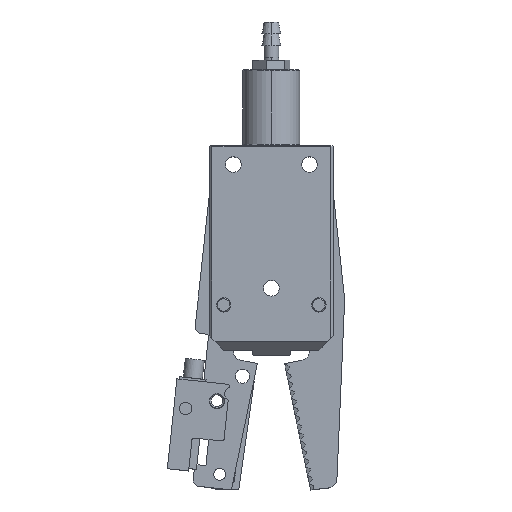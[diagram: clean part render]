
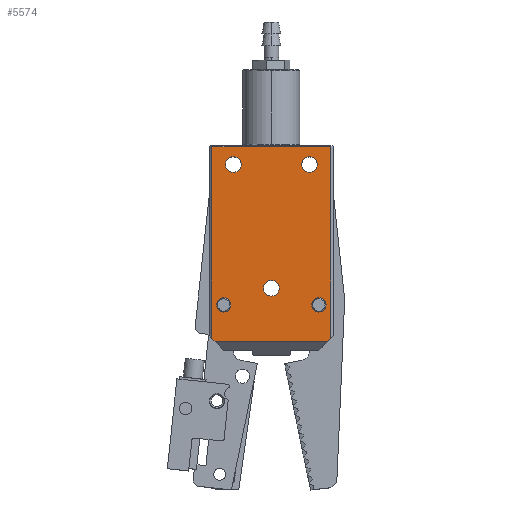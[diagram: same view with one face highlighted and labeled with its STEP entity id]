
A CAD part, top view. The second image highlights one B-rep face of the part: STEP entity #5574.
In plain terms, the highlighted planar face has unit normal (0, 0, 1).
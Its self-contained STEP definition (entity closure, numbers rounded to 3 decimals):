
#82 = VERTEX_POINT ( 'NONE', #11413 ) ;
#238 = AXIS2_PLACEMENT_3D ( 'NONE', #6987, #1581, #7915 ) ;
#245 = VERTEX_POINT ( 'NONE', #2739 ) ;
#340 = VERTEX_POINT ( 'NONE', #11297 ) ;
#346 = EDGE_CURVE ( 'NONE', #9073, #2616, #8725, .T. ) ;
#367 = CARTESIAN_POINT ( 'NONE',  ( 3.481, -20.571, 66.7 ) ) ;
#491 = CARTESIAN_POINT ( 'NONE',  ( -21.519, -20.571, 66.7 ) ) ;
#509 = ORIENTED_EDGE ( 'NONE', *, *, #5047, .F. ) ;
#593 = EDGE_LOOP ( 'NONE', ( #509, #795 ) ) ;
#596 = VERTEX_POINT ( 'NONE', #10872 ) ;
#738 = AXIS2_PLACEMENT_3D ( 'NONE', #1313, #2555, #10762 ) ;
#742 = DIRECTION ( 'NONE',  ( 0., 1., 0. ) ) ;
#769 = CARTESIAN_POINT ( 'NONE',  ( 0.981, -11.421, 66.7 ) ) ;
#795 = ORIENTED_EDGE ( 'NONE', *, *, #8669, .F. ) ;
#1023 = VECTOR ( 'NONE', #8347, 1000. ) ;
#1126 = AXIS2_PLACEMENT_3D ( 'NONE', #2076, #8433, #2997 ) ;
#1183 = CARTESIAN_POINT ( 'NONE',  ( -17.019, 18.229, 66.7 ) ) ;
#1273 = DIRECTION ( 'NONE',  ( 0., -1., 0. ) ) ;
#1284 = CIRCLE ( 'NONE', #238, 1.5 ) ;
#1313 = CARTESIAN_POINT ( 'NONE',  ( -17.019, 16.579, 66.7 ) ) ;
#1319 = ORIENTED_EDGE ( 'NONE', *, *, #4073, .T. ) ;
#1334 = VECTOR ( 'NONE', #2871, 1000. ) ;
#1516 = VERTEX_POINT ( 'NONE', #8026 ) ;
#1581 = DIRECTION ( 'NONE',  ( 0., 0., 1. ) ) ;
#1624 = AXIS2_PLACEMENT_3D ( 'NONE', #10273, #3912, #8406 ) ;
#1631 = CARTESIAN_POINT ( 'NONE',  ( -9.019, -9.421, 66.7 ) ) ;
#1636 = ORIENTED_EDGE ( 'NONE', *, *, #9389, .T. ) ;
#1742 = LINE ( 'NONE', #7425, #1334 ) ;
#1772 = EDGE_LOOP ( 'NONE', ( #6568, #1319 ) ) ;
#1809 = CIRCLE ( 'NONE', #1126, 1.65 ) ;
#1888 = EDGE_CURVE ( 'NONE', #9980, #10443, #3180, .T. ) ;
#1990 = EDGE_CURVE ( 'NONE', #82, #245, #1742, .T. ) ;
#2076 = CARTESIAN_POINT ( 'NONE',  ( -1.019, 16.579, 66.7 ) ) ;
#2090 = EDGE_LOOP ( 'NONE', ( #8263, #8153, #9591, #4567, #2728, #5239 ) ) ;
#2281 = DIRECTION ( 'NONE',  ( 0., 1., 0. ) ) ;
#2403 = DIRECTION ( 'NONE',  ( 0., 0., 1. ) ) ;
#2493 = CARTESIAN_POINT ( 'NONE',  ( -17.019, 16.579, 66.7 ) ) ;
#2555 = DIRECTION ( 'NONE',  ( 0., 0., -1. ) ) ;
#2616 = VERTEX_POINT ( 'NONE', #9142 ) ;
#2723 = AXIS2_PLACEMENT_3D ( 'NONE', #2493, #7938, #3324 ) ;
#2728 = ORIENTED_EDGE ( 'NONE', *, *, #3761, .F. ) ;
#2739 = CARTESIAN_POINT ( 'NONE',  ( 2.831, -20.571, 66.7 ) ) ;
#2871 = DIRECTION ( 'NONE',  ( -0.707, -0.707, 0. ) ) ;
#2997 = DIRECTION ( 'NONE',  ( 0., 1., 0. ) ) ;
#3031 = CARTESIAN_POINT ( 'NONE',  ( -20.869, -20.571, 66.7 ) ) ;
#3146 = DIRECTION ( 'NONE',  ( -1., 0., 0. ) ) ;
#3180 = CIRCLE ( 'NONE', #738, 1.65 ) ;
#3307 = DIRECTION ( 'NONE',  ( 1., 0., 0. ) ) ;
#3324 = DIRECTION ( 'NONE',  ( 0., 1., 0. ) ) ;
#3405 = DIRECTION ( 'NONE',  ( 0., 0., -1. ) ) ;
#3448 = EDGE_CURVE ( 'NONE', #10443, #9980, #7361, .T. ) ;
#3483 = VECTOR ( 'NONE', #1273, 1000. ) ;
#3542 = CIRCLE ( 'NONE', #7589, 1.65 ) ;
#3695 = CIRCLE ( 'NONE', #11181, 1.5 ) ;
#3748 = AXIS2_PLACEMENT_3D ( 'NONE', #9769, #3405, #8855 ) ;
#3761 = EDGE_CURVE ( 'NONE', #2616, #10864, #8947, .T. ) ;
#3912 = DIRECTION ( 'NONE',  ( 0., 0., -1. ) ) ;
#4022 = CIRCLE ( 'NONE', #1624, 1.65 ) ;
#4052 = DIRECTION ( 'NONE',  ( 0., 0., -1. ) ) ;
#4065 = CARTESIAN_POINT ( 'NONE',  ( -1.019, 18.229, 66.7 ) ) ;
#4073 = EDGE_CURVE ( 'NONE', #9991, #8586, #1809, .T. ) ;
#4186 = EDGE_CURVE ( 'NONE', #10864, #1516, #8890, .T. ) ;
#4258 = DIRECTION ( 'NONE',  ( 0., 0., 1. ) ) ;
#4528 = EDGE_LOOP ( 'NONE', ( #4878, #5242 ) ) ;
#4538 = FACE_OUTER_BOUND ( 'NONE', #2090, .T. ) ;
#4567 = ORIENTED_EDGE ( 'NONE', *, *, #4186, .F. ) ;
#4727 = DIRECTION ( 'NONE',  ( -0.707, 0.707, 0. ) ) ;
#4805 = VECTOR ( 'NONE', #10458, 1000. ) ;
#4878 = ORIENTED_EDGE ( 'NONE', *, *, #11101, .F. ) ;
#5047 = EDGE_CURVE ( 'NONE', #8324, #10281, #1284, .T. ) ;
#5160 = CIRCLE ( 'NONE', #3748, 1.65 ) ;
#5191 = VECTOR ( 'NONE', #3307, 1000. ) ;
#5238 = DIRECTION ( 'NONE',  ( 0., 0., 1. ) ) ;
#5239 = ORIENTED_EDGE ( 'NONE', *, *, #346, .F. ) ;
#5242 = ORIENTED_EDGE ( 'NONE', *, *, #6079, .F. ) ;
#5329 = VERTEX_POINT ( 'NONE', #769 ) ;
#5527 = FACE_BOUND ( 'NONE', #593, .T. ) ;
#5574 = ADVANCED_FACE ( 'NONE', ( #4538, #5527, #11240, #8537, #6965, #6676 ), #9498, .F. ) ;
#5665 = EDGE_CURVE ( 'NONE', #340, #596, #3542, .T. ) ;
#6045 = ORIENTED_EDGE ( 'NONE', *, *, #5665, .T. ) ;
#6079 = EDGE_CURVE ( 'NONE', #8493, #5329, #8106, .T. ) ;
#6303 = CARTESIAN_POINT ( 'NONE',  ( -19.019, -14.421, 66.7 ) ) ;
#6568 = ORIENTED_EDGE ( 'NONE', *, *, #8134, .T. ) ;
#6676 = FACE_BOUND ( 'NONE', #7916, .T. ) ;
#6965 = FACE_BOUND ( 'NONE', #11461, .T. ) ;
#6987 = CARTESIAN_POINT ( 'NONE',  ( -19.019, -12.921, 66.7 ) ) ;
#7059 = DIRECTION ( 'NONE',  ( 0., 1., 0. ) ) ;
#7361 = CIRCLE ( 'NONE', #2723, 1.65 ) ;
#7387 = CARTESIAN_POINT ( 'NONE',  ( -1.019, 14.929, 66.7 ) ) ;
#7425 = CARTESIAN_POINT ( 'NONE',  ( 3.481, -19.921, 66.7 ) ) ;
#7589 = AXIS2_PLACEMENT_3D ( 'NONE', #1631, #7964, #742 ) ;
#7915 = DIRECTION ( 'NONE',  ( 0., 1., 0. ) ) ;
#7916 = EDGE_LOOP ( 'NONE', ( #1636, #6045 ) ) ;
#7938 = DIRECTION ( 'NONE',  ( 0., 0., -1. ) ) ;
#7964 = DIRECTION ( 'NONE',  ( 0., 0., -1. ) ) ;
#8026 = CARTESIAN_POINT ( 'NONE',  ( 3.481, 20.379, 66.7 ) ) ;
#8028 = VECTOR ( 'NONE', #4727, 1000. ) ;
#8106 = CIRCLE ( 'NONE', #11145, 1.5 ) ;
#8134 = EDGE_CURVE ( 'NONE', #8586, #9991, #5160, .T. ) ;
#8153 = ORIENTED_EDGE ( 'NONE', *, *, #1990, .F. ) ;
#8263 = ORIENTED_EDGE ( 'NONE', *, *, #10690, .F. ) ;
#8324 = VERTEX_POINT ( 'NONE', #11110 ) ;
#8347 = DIRECTION ( 'NONE',  ( -1., 0., 0. ) ) ;
#8406 = DIRECTION ( 'NONE',  ( 0., 1., 0. ) ) ;
#8433 = DIRECTION ( 'NONE',  ( 0., 0., -1. ) ) ;
#8493 = VERTEX_POINT ( 'NONE', #9363 ) ;
#8537 = FACE_BOUND ( 'NONE', #1772, .T. ) ;
#8545 = LINE ( 'NONE', #11516, #1023 ) ;
#8552 = EDGE_CURVE ( 'NONE', #1516, #82, #10463, .T. ) ;
#8586 = VERTEX_POINT ( 'NONE', #4065 ) ;
#8669 = EDGE_CURVE ( 'NONE', #10281, #8324, #8741, .T. ) ;
#8725 = LINE ( 'NONE', #3031, #8028 ) ;
#8741 = CIRCLE ( 'NONE', #8758, 1.5 ) ;
#8758 = AXIS2_PLACEMENT_3D ( 'NONE', #10643, #4258, #8800 ) ;
#8800 = DIRECTION ( 'NONE',  ( 0., 1., 0. ) ) ;
#8855 = DIRECTION ( 'NONE',  ( 0., 1., 0. ) ) ;
#8890 = LINE ( 'NONE', #11505, #5191 ) ;
#8947 = LINE ( 'NONE', #491, #4805 ) ;
#9073 = VERTEX_POINT ( 'NONE', #9094 ) ;
#9094 = CARTESIAN_POINT ( 'NONE',  ( -20.869, -20.571, 66.7 ) ) ;
#9142 = CARTESIAN_POINT ( 'NONE',  ( -21.519, -19.921, 66.7 ) ) ;
#9284 = ORIENTED_EDGE ( 'NONE', *, *, #3448, .T. ) ;
#9363 = CARTESIAN_POINT ( 'NONE',  ( 0.981, -14.421, 66.7 ) ) ;
#9389 = EDGE_CURVE ( 'NONE', #596, #340, #4022, .T. ) ;
#9498 = PLANE ( 'NONE',  #10889 ) ;
#9505 = ORIENTED_EDGE ( 'NONE', *, *, #1888, .T. ) ;
#9591 = ORIENTED_EDGE ( 'NONE', *, *, #8552, .F. ) ;
#9671 = CARTESIAN_POINT ( 'NONE',  ( 0.981, -12.921, 66.7 ) ) ;
#9769 = CARTESIAN_POINT ( 'NONE',  ( -1.019, 16.579, 66.7 ) ) ;
#9980 = VERTEX_POINT ( 'NONE', #1183 ) ;
#9991 = VERTEX_POINT ( 'NONE', #7387 ) ;
#10273 = CARTESIAN_POINT ( 'NONE',  ( -9.019, -9.421, 66.7 ) ) ;
#10281 = VERTEX_POINT ( 'NONE', #6303 ) ;
#10426 = CARTESIAN_POINT ( 'NONE',  ( 3.481, -20.571, 66.7 ) ) ;
#10443 = VERTEX_POINT ( 'NONE', #10549 ) ;
#10458 = DIRECTION ( 'NONE',  ( 0., 1., 0. ) ) ;
#10463 = LINE ( 'NONE', #367, #3483 ) ;
#10549 = CARTESIAN_POINT ( 'NONE',  ( -17.019, 14.929, 66.7 ) ) ;
#10643 = CARTESIAN_POINT ( 'NONE',  ( -19.019, -12.921, 66.7 ) ) ;
#10690 = EDGE_CURVE ( 'NONE', #245, #9073, #8545, .T. ) ;
#10762 = DIRECTION ( 'NONE',  ( 0., 1., 0. ) ) ;
#10864 = VERTEX_POINT ( 'NONE', #10986 ) ;
#10872 = CARTESIAN_POINT ( 'NONE',  ( -9.019, -7.771, 66.7 ) ) ;
#10889 = AXIS2_PLACEMENT_3D ( 'NONE', #10426, #4052, #3146 ) ;
#10986 = CARTESIAN_POINT ( 'NONE',  ( -21.519, 20.379, 66.7 ) ) ;
#11101 = EDGE_CURVE ( 'NONE', #5329, #8493, #3695, .T. ) ;
#11110 = CARTESIAN_POINT ( 'NONE',  ( -19.019, -11.421, 66.7 ) ) ;
#11145 = AXIS2_PLACEMENT_3D ( 'NONE', #11606, #5238, #7059 ) ;
#11181 = AXIS2_PLACEMENT_3D ( 'NONE', #9671, #2403, #2281 ) ;
#11240 = FACE_BOUND ( 'NONE', #4528, .T. ) ;
#11297 = CARTESIAN_POINT ( 'NONE',  ( -9.019, -11.071, 66.7 ) ) ;
#11413 = CARTESIAN_POINT ( 'NONE',  ( 3.481, -19.921, 66.7 ) ) ;
#11461 = EDGE_LOOP ( 'NONE', ( #9505, #9284 ) ) ;
#11505 = CARTESIAN_POINT ( 'NONE',  ( 3.481, 20.379, 66.7 ) ) ;
#11516 = CARTESIAN_POINT ( 'NONE',  ( 3.481, -20.571, 66.7 ) ) ;
#11606 = CARTESIAN_POINT ( 'NONE',  ( 0.981, -12.921, 66.7 ) ) ;
